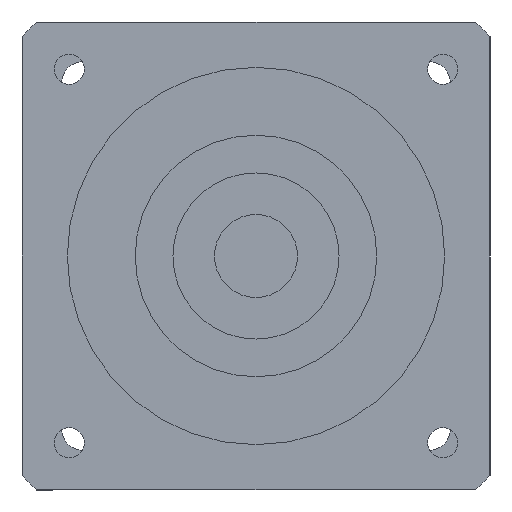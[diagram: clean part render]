
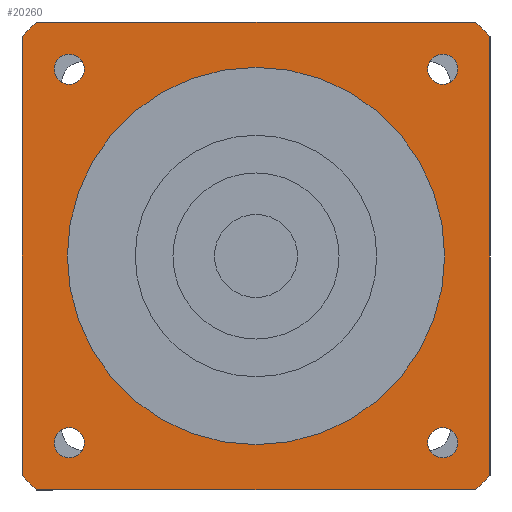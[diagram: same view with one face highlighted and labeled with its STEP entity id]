
A CAD part, left-side view. The second image highlights one B-rep face of the part: STEP entity #20260.
In plain terms, the highlighted planar face has unit normal (-1, 0, 0) as drawn and (0, 0, -1) by its records, which use the part's own axes.
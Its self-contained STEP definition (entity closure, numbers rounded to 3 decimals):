
#11110=CARTESIAN_POINT('',(-31.,29.073,-59.));
#11120=VERTEX_POINT('',#11110);
#11270=CARTESIAN_POINT('',(-31.,-29.073,-59.));
#11280=VERTEX_POINT('',#11270);
#11310=CARTESIAN_POINT('',(-31.,31.,-59.));
#11320=DIRECTION('',(0.,-1.,0.));
#11330=VECTOR('',#11320,1000.);
#11340=LINE('',#11310,#11330);
#11350=EDGE_CURVE('',#11120,#11280,#11340,.T.);
#12930=CARTESIAN_POINT('',(-29.073,-31.,-59.));
#12940=VERTEX_POINT('',#12930);
#12970=CARTESIAN_POINT('',(0.,0.,
-59.));
#12980=DIRECTION('',(0.,0.,1.));
#12990=DIRECTION('',(0.,-1.,0.));
#13000=AXIS2_PLACEMENT_3D('',#12970,#12980,#12990);
#13010=CIRCLE('',#13000,42.5);
#13020=EDGE_CURVE('',#11280,#12940,#13010,.T.);
#17850=CARTESIAN_POINT('',(-29.073,31.,-59.));
#17860=VERTEX_POINT('',#17850);
#17910=CARTESIAN_POINT('',(0.,0.,
-59.));
#17920=DIRECTION('',(0.,0.,1.));
#17930=DIRECTION('',(0.,-1.,0.));
#17940=AXIS2_PLACEMENT_3D('',#17910,#17920,#17930);
#17950=CIRCLE('',#17940,42.5);
#17960=EDGE_CURVE('',#17860,#11120,#17950,.T.);
#18100=CARTESIAN_POINT('',(29.073,31.,-59.));
#18110=VERTEX_POINT('',#18100);
#18160=CARTESIAN_POINT('',(31.,31.,-59.));
#18170=DIRECTION('',(-1.,0.,0.));
#18180=VECTOR('',#18170,1000.);
#18190=LINE('',#18160,#18180);
#18200=EDGE_CURVE('',#18110,#17860,#18190,.T.);
#18310=CARTESIAN_POINT('',(0.,0.,
-59.));
#18320=DIRECTION('',(0.,0.,1.));
#18330=DIRECTION('',(0.,-1.,0.));
#18340=AXIS2_PLACEMENT_3D('',#18310,#18320,#18330);
#18350=CIRCLE('',#18340,42.5);
#18360=CARTESIAN_POINT('',(31.,29.073,-59.));
#18370=VERTEX_POINT('',#18360);
#18380=EDGE_CURVE('',#18370,#18110,#18350,.T.);
#18590=CARTESIAN_POINT('',(31.,-29.073,-59.));
#18600=VERTEX_POINT('',#18590);
#18650=CARTESIAN_POINT('',(31.,-31.,-59.));
#18660=DIRECTION('',(0.,1.,0.));
#18670=VECTOR('',#18660,1000.);
#18680=LINE('',#18650,#18670);
#18690=EDGE_CURVE('',#18600,#18370,#18680,.T.);
#18830=CARTESIAN_POINT('',(29.073,-31.,-59.));
#18840=VERTEX_POINT('',#18830);
#18890=CARTESIAN_POINT('',(0.,0.,
-59.));
#18900=DIRECTION('',(0.,0.,1.));
#18910=DIRECTION('',(0.,-1.,0.));
#18920=AXIS2_PLACEMENT_3D('',#18890,#18900,#18910);
#18930=CIRCLE('',#18920,42.5);
#18940=EDGE_CURVE('',#18840,#18600,#18930,.T.);
#19070=CARTESIAN_POINT('',(-31.,-31.,-59.));
#19080=DIRECTION('',(1.,0.,0.));
#19090=VECTOR('',#19080,1000.);
#19100=LINE('',#19070,#19090);
#19110=EDGE_CURVE('',#12940,#18840,#19100,.T.);
#19160=CARTESIAN_POINT('',(-31.,31.,-59.));
#19170=DIRECTION('',(0.,0.,1.));
#19180=DIRECTION('',(-1.,0.,0.));
#19190=AXIS2_PLACEMENT_3D('',#19160,#19170,#19180);
#19200=PLANE('',#19190);
#19210=CARTESIAN_POINT('',(24.749,-24.749,-59.));
#19220=DIRECTION('',(0.,0.,-1.));
#19230=DIRECTION('',(1.,0.,0.));
#19240=AXIS2_PLACEMENT_3D('',#19210,#19220,#19230);
#19250=CIRCLE('',#19240,2.);
#19260=CARTESIAN_POINT('',(26.749,-24.749,-59.));
#19270=VERTEX_POINT('',#19260);
#19280=CARTESIAN_POINT('',(24.749,-26.749,-59.));
#19290=VERTEX_POINT('',#19280);
#19300=EDGE_CURVE('',#19270,#19290,#19250,.T.);
#19310=ORIENTED_EDGE('',*,*,#19300,.F.);
#19320=CARTESIAN_POINT('',(24.749,-22.749,-59.));
#19330=VERTEX_POINT('',#19320);
#19340=EDGE_CURVE('',#19290,#19330,#19250,.T.);
#19350=ORIENTED_EDGE('',*,*,#19340,.F.);
#19360=EDGE_CURVE('',#19330,#19270,#19250,.T.);
#19370=ORIENTED_EDGE('',*,*,#19360,.F.);
#19380=EDGE_LOOP('',(#19370,#19350,#19310));
#19390=FACE_BOUND('',#19380,.T.);
#19400=CARTESIAN_POINT('',(24.749,24.749,-59.));
#19410=DIRECTION('',(0.,0.,-1.));
#19420=DIRECTION('',(0.,1.,0.));
#19430=AXIS2_PLACEMENT_3D('',#19400,#19410,#19420);
#19440=CIRCLE('',#19430,2.);
#19450=CARTESIAN_POINT('',(24.749,26.749,-59.));
#19460=VERTEX_POINT('',#19450);
#19470=CARTESIAN_POINT('',(26.749,24.749,-59.));
#19480=VERTEX_POINT('',#19470);
#19490=EDGE_CURVE('',#19460,#19480,#19440,.T.);
#19500=ORIENTED_EDGE('',*,*,#19490,.F.);
#19510=CARTESIAN_POINT('',(22.749,24.749,-59.));
#19520=VERTEX_POINT('',#19510);
#19530=EDGE_CURVE('',#19480,#19520,#19440,.T.);
#19540=ORIENTED_EDGE('',*,*,#19530,.F.);
#19550=EDGE_CURVE('',#19520,#19460,#19440,.T.);
#19560=ORIENTED_EDGE('',*,*,#19550,.F.);
#19570=EDGE_LOOP('',(#19560,#19540,#19500));
#19580=FACE_BOUND('',#19570,.T.);
#19590=CARTESIAN_POINT('',(-24.749,24.749,-59.));
#19600=DIRECTION('',(0.,0.,-1.));
#19610=DIRECTION('',(-1.,0.,0.));
#19620=AXIS2_PLACEMENT_3D('',#19590,#19600,#19610);
#19630=CIRCLE('',#19620,2.);
#19640=CARTESIAN_POINT('',(-26.749,24.749,-59.));
#19650=VERTEX_POINT('',#19640);
#19660=CARTESIAN_POINT('',(-24.749,26.749,-59.));
#19670=VERTEX_POINT('',#19660);
#19680=EDGE_CURVE('',#19650,#19670,#19630,.T.);
#19690=ORIENTED_EDGE('',*,*,#19680,.F.);
#19700=CARTESIAN_POINT('',(-24.749,22.749,-59.));
#19710=VERTEX_POINT('',#19700);
#19720=EDGE_CURVE('',#19670,#19710,#19630,.T.);
#19730=ORIENTED_EDGE('',*,*,#19720,.F.);
#19740=EDGE_CURVE('',#19710,#19650,#19630,.T.);
#19750=ORIENTED_EDGE('',*,*,#19740,.F.);
#19760=EDGE_LOOP('',(#19750,#19730,#19690));
#19770=FACE_BOUND('',#19760,.T.);
#19780=CARTESIAN_POINT('',(-24.749,-24.749,-59.));
#19790=DIRECTION('',(0.,0.,-1.));
#19800=DIRECTION('',(0.,-1.,0.));
#19810=AXIS2_PLACEMENT_3D('',#19780,#19790,#19800);
#19820=CIRCLE('',#19810,2.);
#19830=CARTESIAN_POINT('',(-24.749,-26.749,-59.));
#19840=VERTEX_POINT('',#19830);
#19850=CARTESIAN_POINT('',(-26.749,-24.749,-59.));
#19860=VERTEX_POINT('',#19850);
#19870=EDGE_CURVE('',#19840,#19860,#19820,.T.);
#19880=ORIENTED_EDGE('',*,*,#19870,.F.);
#19890=CARTESIAN_POINT('',(-22.749,-24.749,-59.));
#19900=VERTEX_POINT('',#19890);
#19910=EDGE_CURVE('',#19860,#19900,#19820,.T.);
#19920=ORIENTED_EDGE('',*,*,#19910,.F.);
#19930=EDGE_CURVE('',#19900,#19840,#19820,.T.);
#19940=ORIENTED_EDGE('',*,*,#19930,.F.);
#19950=EDGE_LOOP('',(#19940,#19920,#19880));
#19960=FACE_BOUND('',#19950,.T.);
#19970=ORIENTED_EDGE('',*,*,#13020,.F.);
#19980=ORIENTED_EDGE('',*,*,#19110,.F.);
#19990=ORIENTED_EDGE('',*,*,#18940,.F.);
#20000=ORIENTED_EDGE('',*,*,#18690,.F.);
#20010=ORIENTED_EDGE('',*,*,#18380,.F.);
#20020=ORIENTED_EDGE('',*,*,#18200,.F.);
#20030=ORIENTED_EDGE('',*,*,#17960,.F.);
#20040=ORIENTED_EDGE('',*,*,#11350,.F.);
#20050=EDGE_LOOP('',(#20040,#20030,#20020,#20010,#20000,#19990,#19980,
#19970));
#20060=FACE_OUTER_BOUND('',#20050,.T.);
#20070=CARTESIAN_POINT('',(0.,0.,
-59.));
#20080=DIRECTION('',(0.,0.,1.));
#20090=DIRECTION('',(0.,-1.,0.));
#20100=AXIS2_PLACEMENT_3D('',#20070,#20080,#20090);
#20110=CIRCLE('',#20100,25.);
#20120=CARTESIAN_POINT('',(25.,0.,-59.));
#20130=VERTEX_POINT('',#20120);
#20140=CARTESIAN_POINT('',(-25.,0.,-59.));
#20150=VERTEX_POINT('',#20140);
#20160=EDGE_CURVE('',#20130,#20150,#20110,.T.);
#20170=ORIENTED_EDGE('',*,*,#20160,.T.);
#20180=CARTESIAN_POINT('',(0.,-25.,-59.));
#20190=VERTEX_POINT('',#20180);
#20200=EDGE_CURVE('',#20190,#20130,#20110,.T.);
#20210=ORIENTED_EDGE('',*,*,#20200,.T.);
#20220=EDGE_CURVE('',#20150,#20190,#20110,.T.);
#20230=ORIENTED_EDGE('',*,*,#20220,.T.);
#20240=EDGE_LOOP('',(#20230,#20210,#20170));
#20250=FACE_BOUND('',#20240,.T.);
#20260=ADVANCED_FACE('',(#19390,#19580,#19770,#19960,#20060,#20250),
#19200,.F.);
